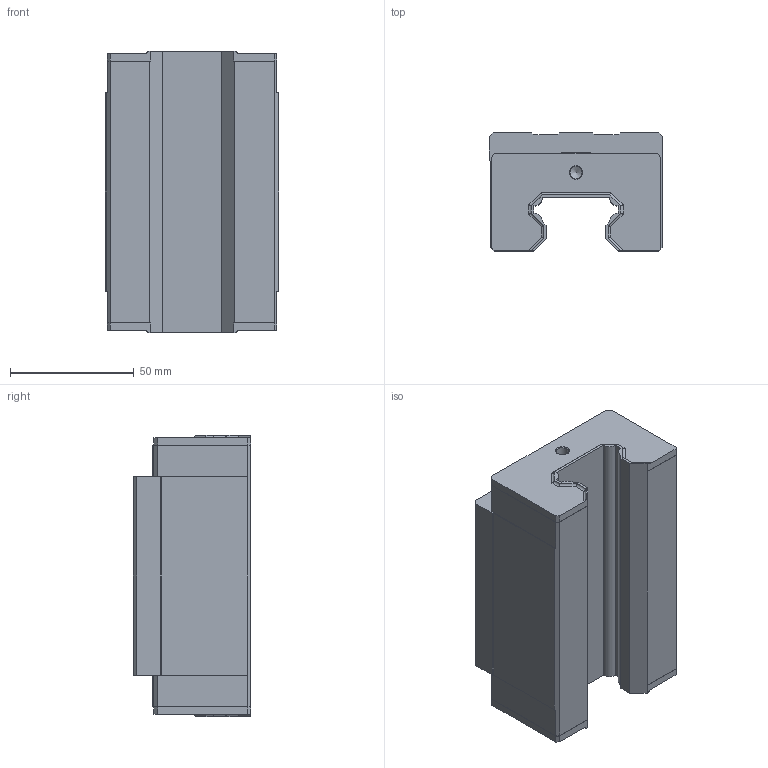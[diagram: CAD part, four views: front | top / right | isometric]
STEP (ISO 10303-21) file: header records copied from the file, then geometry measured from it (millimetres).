
FILE_DESCRIPTION(/* description */ (''),/* implementation_level */ '2;1');
FILE_NAME(/* name */ 'C:\Users\daviddillkoetter\ownCloud\Kamp und Kötter\Artikel\KPN_Profilführungen\Step\KPNW-35X-BS.stp',/* time_stamp */ '2021-01-27T16:44:41+01:00',/* author */ ('daviddillkoetter'),/* organization */ (''),/* preprocessor_version */ 'ST-DEVELOPER v18.1',/* originating_system */ 'Autodesk Inventor 2021',/* authorisation */ '');
FILE_SCHEMA (('AUTOMOTIVE_DESIGN { 1 0 10303 214 3 1 1 }'));
Length unit declared in the file: millimetre
Products named in the file (1): KPNW_F
Bounding box: 70 x 47.5 x 113.76 mm (x, y, z)
Volume: 278522.5 mm3; surface area: 37962.2 mm2
Topology: 1 solids, 1 shells, 116 faces, 336 edges, 222 vertices
Faces by surface type: plane 72, cylinder 32, cone 12
Full cylindrical faces by diameter (mm): 4.917 x2, 6.647 x4
Entity records: 3912 total; most frequent: CARTESIAN_POINT 669, ORIENTED_EDGE 660, DIRECTION 620, EDGE_CURVE 330, LINE 274, VECTOR 274, VERTEX_POINT 222, AXIS2_PLACEMENT_3D 173
